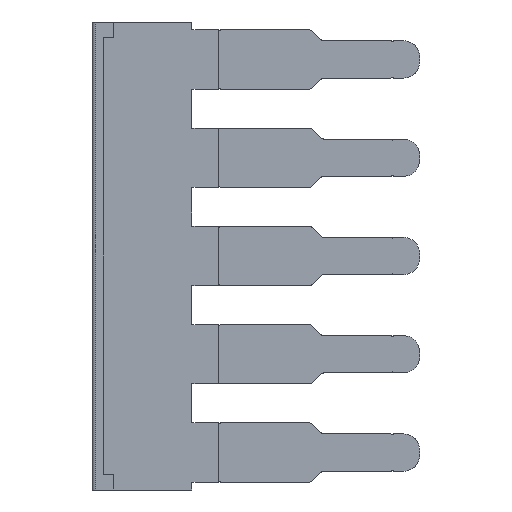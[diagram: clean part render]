
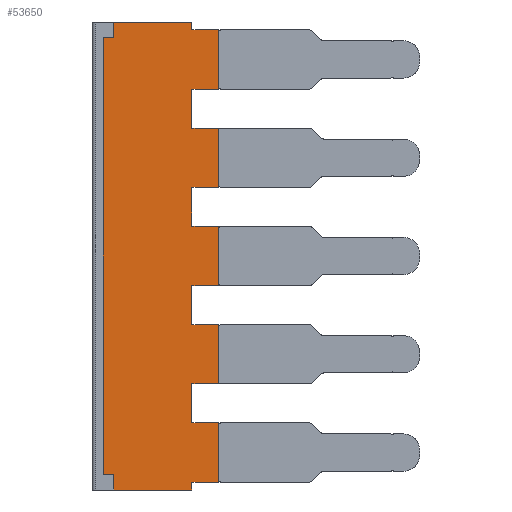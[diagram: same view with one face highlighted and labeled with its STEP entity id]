
A CAD part, left-side view. The second image highlights one B-rep face of the part: STEP entity #53650.
In plain terms, the highlighted planar face has unit normal (-1, 0, 0).
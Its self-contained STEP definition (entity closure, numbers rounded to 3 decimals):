
#2860=CARTESIAN_POINT('',(-8.9,26.8,8.45));
#2870=VERTEX_POINT('',#2860);
#2900=CARTESIAN_POINT('',(-8.9,33.2,
8.45));
#2910=DIRECTION('',(0.,1.,0.));
#2920=VECTOR('',#2910,1.);
#2930=LINE('',#2900,#2920);
#2940=CARTESIAN_POINT('',(-8.9,25.1,8.45));
#2950=VERTEX_POINT('',#2940);
#2960=EDGE_CURVE('',#2950,#2870,#2930,.T.);
#4150=CARTESIAN_POINT('',(-8.9,26.8,-10.45));
#4160=VERTEX_POINT('',#4150);
#4190=CARTESIAN_POINT('',(-8.9,33.2,-10.45));
#4200=DIRECTION('',(0.,1.,0.));
#4210=VECTOR('',#4200,1.);
#4220=LINE('',#4190,#4210);
#4230=CARTESIAN_POINT('',(-8.9,25.1,-10.45));
#4240=VERTEX_POINT('',#4230);
#4250=EDGE_CURVE('',#4240,#4160,#4220,.T.);
#4620=CARTESIAN_POINT('',(-8.9,26.8,
-6.65));
#4630=VERTEX_POINT('',#4620);
#4780=CARTESIAN_POINT('',(-8.9,25.1,-6.65));
#4790=VERTEX_POINT('',#4780);
#4820=CARTESIAN_POINT('',(-8.9,33.2,
-6.65));
#4830=DIRECTION('',(0.,1.,0.));
#4840=VECTOR('',#4830,1.);
#4850=LINE('',#4820,#4840);
#4860=EDGE_CURVE('',#4790,#4630,#4850,.T.);
#7040=CARTESIAN_POINT('',(-8.9,31.8,-10.95));
#7050=VERTEX_POINT('',#7040);
#7080=CARTESIAN_POINT('',(-8.9,33.2,-10.95));
#7090=DIRECTION('',(0.,-1.,0.));
#7100=VECTOR('',#7090,1.);
#7110=LINE('',#7080,#7100);
#7120=CARTESIAN_POINT('',(-8.9,26.8,-10.95));
#7130=VERTEX_POINT('',#7120);
#7140=EDGE_CURVE('',#7050,#7130,#7110,.T.);
#7590=CARTESIAN_POINT('',(-8.9,26.8,5.95));
#7600=VERTEX_POINT('',#7590);
#7630=CARTESIAN_POINT('',(-8.9,26.8,43.85));
#7640=DIRECTION('',(0.,0.,1.));
#7650=VECTOR('',#7640,1.);
#7660=LINE('',#7630,#7650);
#7670=EDGE_CURVE('',#7600,#2870,#7660,.T.);
#12160=CARTESIAN_POINT('',(-8.9,33.2,
-9.95));
#12170=DIRECTION('',(0.,-1.,0.));
#12180=VECTOR('',#12170,1.);
#12190=LINE('',#12160,#12180);
#12200=CARTESIAN_POINT('',(-8.9,32.5,
-9.95));
#12210=VERTEX_POINT('',#12200);
#12220=CARTESIAN_POINT('',(-8.9,31.8,
-9.95));
#12230=VERTEX_POINT('',#12220);
#12240=EDGE_CURVE('',#12210,#12230,#12190,.T.);
#12600=CARTESIAN_POINT('',(-8.9,25.1,12.25));
#12610=VERTEX_POINT('',#12600);
#12640=CARTESIAN_POINT('',(-8.9,33.2,12.25));
#12650=DIRECTION('',(0.,-1.,0.));
#12660=VECTOR('',#12650,1.);
#12670=LINE('',#12640,#12660);
#12680=CARTESIAN_POINT('',(-8.9,26.8,12.25));
#12690=VERTEX_POINT('',#12680);
#12700=EDGE_CURVE('',#12690,#12610,#12670,.T.);
#17420=CARTESIAN_POINT('',(-8.9,31.8,44.55));
#17430=DIRECTION('',(0.,0.,1.));
#17440=VECTOR('',#17430,1.);
#17450=LINE('',#17420,#17440);
#17460=EDGE_CURVE('',#7050,#12230,#17450,.T.);
#18530=CARTESIAN_POINT('',(-8.9,25.1,44.55));
#18540=DIRECTION('',(0.,0.,1.));
#18550=VECTOR('',#18540,1.);
#18560=LINE('',#18530,#18550);
#18570=EDGE_CURVE('',#2950,#12610,#18560,.T.);
#19050=CARTESIAN_POINT('',(-8.9,26.8,14.75));
#19060=VERTEX_POINT('',#19050);
#19160=CARTESIAN_POINT('',(-8.9,26.8,-35.55));
#19170=DIRECTION('',(0.,0.,-1.));
#19180=VECTOR('',#19170,1.);
#19190=LINE('',#19160,#19180);
#19200=EDGE_CURVE('',#19060,#12690,#19190,.T.);
#21000=CARTESIAN_POINT('',(-8.9,26.8,
-4.15));
#21010=VERTEX_POINT('',#21000);
#21110=CARTESIAN_POINT('',(-8.9,26.8,43.65));
#21120=DIRECTION('',(0.,0.,1.));
#21130=VECTOR('',#21120,1.);
#21140=LINE('',#21110,#21130);
#21150=EDGE_CURVE('',#4630,#21010,#21140,.T.);
#23070=CARTESIAN_POINT('',(-8.9,26.8,-10.15));
#23080=DIRECTION('',(0.,0.,-1.));
#23090=VECTOR('',#23080,1.);
#23100=LINE('',#23070,#23090);
#23110=EDGE_CURVE('',#4160,#7130,#23100,.T.);
#24240=EDGE_CURVE('',#4240,#4790,#18560,.T.);
#27050=CARTESIAN_POINT('',(-8.9,26.8,
2.15));
#27060=VERTEX_POINT('',#27050);
#27090=CARTESIAN_POINT('',(-8.9,33.2,
2.15));
#27100=DIRECTION('',(0.,1.,0.));
#27110=VECTOR('',#27100,1.);
#27120=LINE('',#27090,#27110);
#27130=CARTESIAN_POINT('',(-8.9,25.1,2.15));
#27140=VERTEX_POINT('',#27130);
#27150=EDGE_CURVE('',#27140,#27060,#27120,.T.);
#27940=CARTESIAN_POINT('',(-8.9,25.1,-0.35));
#27950=VERTEX_POINT('',#27940);
#27980=CARTESIAN_POINT('',(-8.9,33.2,
-0.35));
#27990=DIRECTION('',(0.,-1.,0.));
#28000=VECTOR('',#27990,1.);
#28010=LINE('',#27980,#28000);
#28020=CARTESIAN_POINT('',(-8.9,26.8,
-0.35));
#28030=VERTEX_POINT('',#28020);
#28040=EDGE_CURVE('',#28030,#27950,#28010,.T.);
#29090=CARTESIAN_POINT('',(-8.9,33.2,
-4.15));
#29100=DIRECTION('',(0.,1.,0.));
#29110=VECTOR('',#29100,1.);
#29120=LINE('',#29090,#29110);
#29130=CARTESIAN_POINT('',(-8.9,25.1,-4.15));
#29140=VERTEX_POINT('',#29130);
#29150=EDGE_CURVE('',#29140,#21010,#29120,.T.);
#29590=CARTESIAN_POINT('',(-8.9,25.1,5.95));
#29600=VERTEX_POINT('',#29590);
#29630=CARTESIAN_POINT('',(-8.9,33.2,
5.95));
#29640=DIRECTION('',(0.,-1.,0.));
#29650=VECTOR('',#29640,1.);
#29660=LINE('',#29630,#29650);
#29670=EDGE_CURVE('',#7600,#29600,#29660,.T.);
#29830=EDGE_CURVE('',#27140,#29600,#18560,.T.);
#30420=CARTESIAN_POINT('',(-8.9,26.8,43.75));
#30430=DIRECTION('',(0.,0.,1.));
#30440=VECTOR('',#30430,1.);
#30450=LINE('',#30420,#30440);
#30460=EDGE_CURVE('',#28030,#27060,#30450,.T.);
#31140=EDGE_CURVE('',#29140,#27950,#18560,.T.);
#49880=CARTESIAN_POINT('',(-8.9,26.8,19.05));
#49890=VERTEX_POINT('',#49880);
#49920=CARTESIAN_POINT('',(-8.9,33.2,19.05));
#49930=DIRECTION('',(0.,-1.,0.));
#49940=VECTOR('',#49930,1.);
#49950=LINE('',#49920,#49940);
#49960=CARTESIAN_POINT('',(-8.9,31.8,19.05));
#49970=VERTEX_POINT('',#49960);
#49980=EDGE_CURVE('',#49970,#49890,#49950,.T.);
#50350=CARTESIAN_POINT('',(-8.9,31.8,18.05));
#50360=VERTEX_POINT('',#50350);
#50410=CARTESIAN_POINT('',(-8.9,31.8,-36.45));
#50420=DIRECTION('',(0.,0.,-1.));
#50430=VECTOR('',#50420,1.);
#50440=LINE('',#50410,#50430);
#50450=EDGE_CURVE('',#49970,#50360,#50440,.T.);
#50660=CARTESIAN_POINT('',(-8.9,32.5,18.05));
#50670=VERTEX_POINT('',#50660);
#50720=CARTESIAN_POINT('',(-8.9,33.2,18.05));
#50730=DIRECTION('',(0.,-1.,0.));
#50740=VECTOR('',#50730,1.);
#50750=LINE('',#50720,#50740);
#50760=EDGE_CURVE('',#50670,#50360,#50750,.T.);
#50960=CARTESIAN_POINT('',(-8.9,32.5,-36.45));
#50970=DIRECTION('',(0.,0.,1.));
#50980=VECTOR('',#50970,1.);
#50990=LINE('',#50960,#50980);
#51000=EDGE_CURVE('',#12210,#50670,#50990,.T.);
#53040=CARTESIAN_POINT('',(-8.9,33.2,-40.75));
#53050=DIRECTION('',(-1.,-0.,0.));
#53060=DIRECTION('',(0.,0.,-1.));
#53070=AXIS2_PLACEMENT_3D('',#53040,#53050,#53060);
#53080=PLANE('',#53070);
#53090=ORIENTED_EDGE('',*,*,#50450,.T.);
#53100=ORIENTED_EDGE('',*,*,#49980,.F.);
#53110=CARTESIAN_POINT('',(-8.9,26.8,18.25));
#53120=DIRECTION('',(0.,0.,1.));
#53130=VECTOR('',#53120,1.);
#53140=LINE('',#53110,#53130);
#53150=CARTESIAN_POINT('',(-8.9,26.8,18.55));
#53160=VERTEX_POINT('',#53150);
#53170=EDGE_CURVE('',#53160,#49890,#53140,.T.);
#53180=ORIENTED_EDGE('',*,*,#53170,.T.);
#53190=CARTESIAN_POINT('',(-8.9,33.2,18.55));
#53200=DIRECTION('',(0.,1.,0.));
#53210=VECTOR('',#53200,1.);
#53220=LINE('',#53190,#53210);
#53230=CARTESIAN_POINT('',(-8.9,25.1,18.55));
#53240=VERTEX_POINT('',#53230);
#53250=EDGE_CURVE('',#53240,#53160,#53220,.T.);
#53260=ORIENTED_EDGE('',*,*,#53250,.T.);
#53270=CARTESIAN_POINT('',(-8.9,25.1,-36.45));
#53280=DIRECTION('',(0.,0.,-1.));
#53290=VECTOR('',#53280,1.);
#53300=LINE('',#53270,#53290);
#53310=CARTESIAN_POINT('',(-8.9,25.1,14.75));
#53320=VERTEX_POINT('',#53310);
#53330=EDGE_CURVE('',#53240,#53320,#53300,.T.);
#53340=ORIENTED_EDGE('',*,*,#53330,.F.);
#53350=CARTESIAN_POINT('',(-8.9,33.2,14.75));
#53360=DIRECTION('',(0.,1.,0.));
#53370=VECTOR('',#53360,1.);
#53380=LINE('',#53350,#53370);
#53390=EDGE_CURVE('',#53320,#19060,#53380,.T.);
#53400=ORIENTED_EDGE('',*,*,#53390,.F.);
#53410=ORIENTED_EDGE('',*,*,#19200,.F.);
#53420=ORIENTED_EDGE('',*,*,#12700,.F.);
#53430=ORIENTED_EDGE('',*,*,#18570,.T.);
#53440=ORIENTED_EDGE('',*,*,#2960,.F.);
#53450=ORIENTED_EDGE('',*,*,#7670,.T.);
#53460=ORIENTED_EDGE('',*,*,#29670,.F.);
#53470=ORIENTED_EDGE('',*,*,#29830,.T.);
#53480=ORIENTED_EDGE('',*,*,#27150,.F.);
#53490=ORIENTED_EDGE('',*,*,#30460,.T.);
#53500=ORIENTED_EDGE('',*,*,#28040,.F.);
#53510=ORIENTED_EDGE('',*,*,#31140,.T.);
#53520=ORIENTED_EDGE('',*,*,#29150,.F.);
#53530=ORIENTED_EDGE('',*,*,#21150,.T.);
#53540=ORIENTED_EDGE('',*,*,#4860,.T.);
#53550=ORIENTED_EDGE('',*,*,#24240,.T.);
#53560=ORIENTED_EDGE('',*,*,#4250,.F.);
#53570=ORIENTED_EDGE('',*,*,#23110,.F.);
#53580=ORIENTED_EDGE('',*,*,#7140,.T.);
#53590=ORIENTED_EDGE('',*,*,#17460,.F.);
#53600=ORIENTED_EDGE('',*,*,#12240,.T.);
#53610=ORIENTED_EDGE('',*,*,#51000,.F.);
#53620=ORIENTED_EDGE('',*,*,#50760,.F.);
#53630=EDGE_LOOP('',(#53620,#53610,#53600,#53590,#53580,#53570,#53560,
#53550,#53540,#53530,#53520,#53510,#53500,#53490,#53480,#53470,#53460,
#53450,#53440,#53430,#53420,#53410,#53400,#53340,#53260,#53180,#53100,
#53090));
#53640=FACE_OUTER_BOUND('',#53630,.T.);
#53650=ADVANCED_FACE('',(#53640),#53080,.T.);
